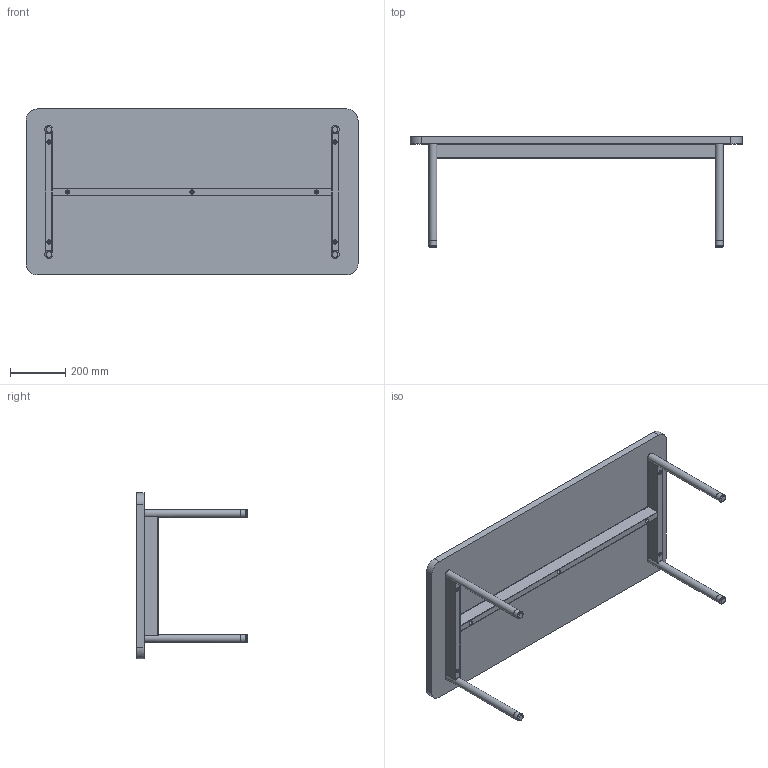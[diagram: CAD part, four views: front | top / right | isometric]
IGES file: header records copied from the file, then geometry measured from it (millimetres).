
Global section: file name: Mesa de centro 1200 x 600 ANTIK; native system: Autodesk Inventor 2021; preprocessor: unknown; author: ycardona; date: 20220822.140109; units: millimetre
Bounding box: 1200 x 400 x 600 mm (x, y, z)
Volume: 19770852 mm3; surface area: 2353947.1 mm2
Topology: 33 solids, 33 shells, 406 faces, 1056 edges, 727 vertices
Faces by surface type: bspline 406
